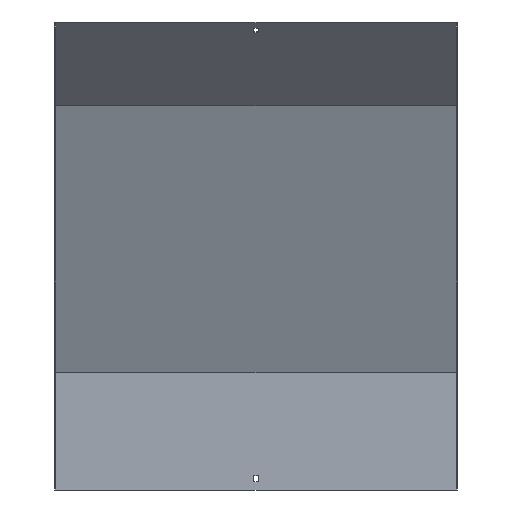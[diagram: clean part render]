
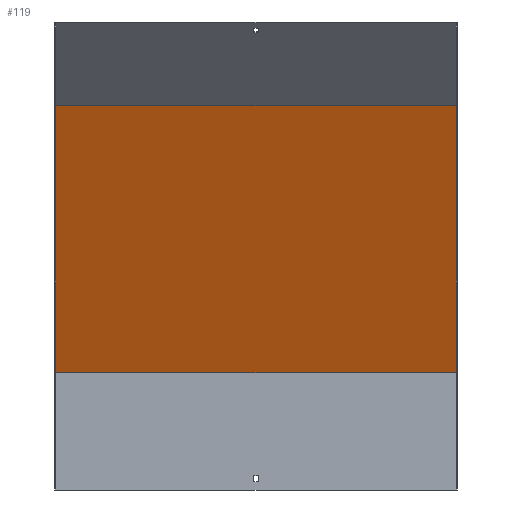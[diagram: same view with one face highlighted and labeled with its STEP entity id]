
A CAD part, front view. The second image highlights one B-rep face of the part: STEP entity #119.
In plain terms, the highlighted planar face has unit normal (0, -0.924, -0.383).
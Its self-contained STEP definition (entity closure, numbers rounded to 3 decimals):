
#7 = CARTESIAN_POINT ( 'NONE',  ( -300., -147.34, 576.052 ) ) ;
#51 = ORIENTED_EDGE ( 'NONE', *, *, #659, .F. ) ;
#80 = LINE ( 'NONE', #228, #734 ) ;
#94 = VERTEX_POINT ( 'NONE', #569 ) ;
#118 = ORIENTED_EDGE ( 'NONE', *, *, #756, .T. ) ;
#119 = ADVANCED_FACE ( 'NONE', ( #179 ), #519, .T. ) ;
#163 = VERTEX_POINT ( 'NONE', #7 ) ;
#168 = CARTESIAN_POINT ( 'NONE',  ( -300., 77.903, 32.268 ) ) ;
#174 = ORIENTED_EDGE ( 'NONE', *, *, #738, .F. ) ;
#179 = FACE_OUTER_BOUND ( 'NONE', #392, .T. ) ;
#194 = CARTESIAN_POINT ( 'NONE',  ( 301.5, -147.34, 576.052 ) ) ;
#219 = CARTESIAN_POINT ( 'NONE',  ( -300., 18.5, 175.68 ) ) ;
#228 = CARTESIAN_POINT ( 'NONE',  ( 300., 77.903, 32.268 ) ) ;
#260 = LINE ( 'NONE', #194, #648 ) ;
#274 = DIRECTION ( 'NONE',  ( -1., 0., 0. ) ) ;
#319 = VECTOR ( 'NONE', #274, 1000. ) ;
#374 = DIRECTION ( 'NONE',  ( 0., 0.383, -0.924 ) ) ;
#392 = EDGE_LOOP ( 'NONE', ( #174, #51, #118, #668 ) ) ;
#410 = VERTEX_POINT ( 'NONE', #219 ) ;
#424 = DIRECTION ( 'NONE',  ( 0., -0.383, 0.924 ) ) ;
#436 = DIRECTION ( 'NONE',  ( -1., 0., 0. ) ) ;
#443 = CARTESIAN_POINT ( 'NONE',  ( 301.5, 17.092, 179.08 ) ) ;
#469 = AXIS2_PLACEMENT_3D ( 'NONE', #443, #839, #374 ) ;
#483 = VECTOR ( 'NONE', #424, 1000. ) ;
#487 = CARTESIAN_POINT ( 'NONE',  ( 300., 18.5, 175.68 ) ) ;
#508 = EDGE_CURVE ( 'NONE', #94, #163, #260, .T. ) ;
#519 = PLANE ( 'NONE',  #469 ) ;
#569 = CARTESIAN_POINT ( 'NONE',  ( 300., -147.34, 576.052 ) ) ;
#597 = CARTESIAN_POINT ( 'NONE',  ( 301.5, 18.5, 175.68 ) ) ;
#648 = VECTOR ( 'NONE', #436, 1000. ) ;
#659 = EDGE_CURVE ( 'NONE', #768, #410, #846, .T. ) ;
#666 = LINE ( 'NONE', #168, #483 ) ;
#668 = ORIENTED_EDGE ( 'NONE', *, *, #508, .T. ) ;
#725 = DIRECTION ( 'NONE',  ( 0., -0.383, 0.924 ) ) ;
#734 = VECTOR ( 'NONE', #725, 1000. ) ;
#738 = EDGE_CURVE ( 'NONE', #410, #163, #666, .T. ) ;
#756 = EDGE_CURVE ( 'NONE', #768, #94, #80, .T. ) ;
#768 = VERTEX_POINT ( 'NONE', #487 ) ;
#839 = DIRECTION ( 'NONE',  ( 0., -0.924, -0.383 ) ) ;
#846 = LINE ( 'NONE', #597, #319 ) ;
